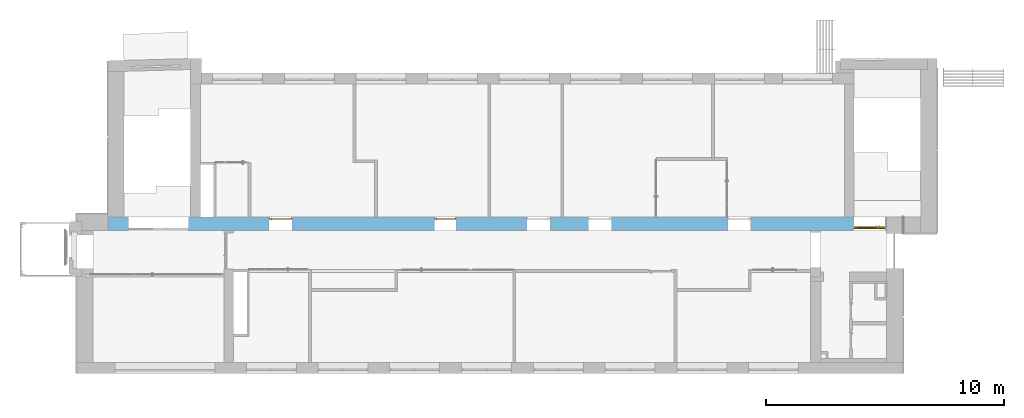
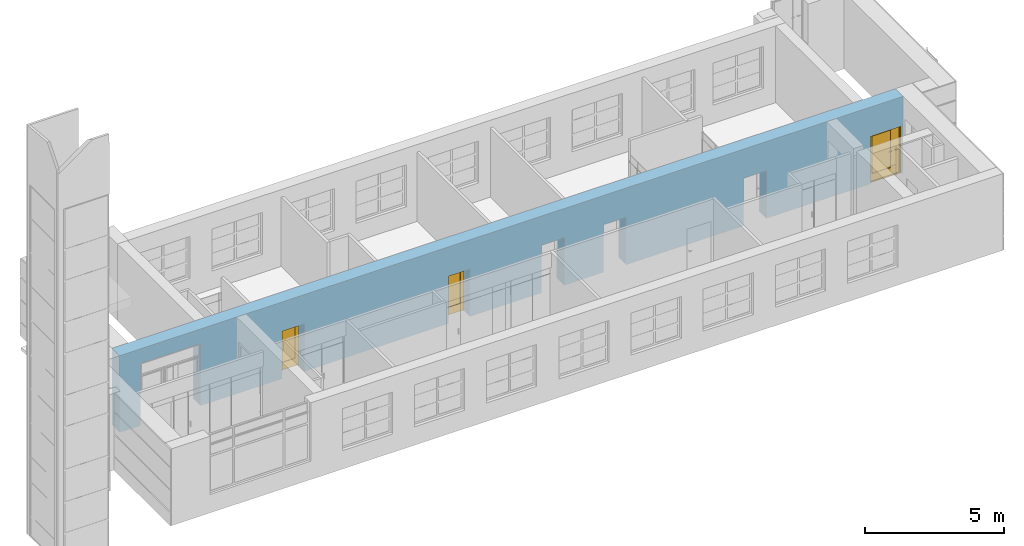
# One storey, part 63 of 66: 3 doors, 17 openings, plus 1 element that does not belong to this part.
"""IFC2X3 building model written with IfcOpenShell, lengths in millimetres."""

from ifc_helpers import new_model, entity, si_unit, converted_unit, derived_unit, direction, frame, frame_2d, origin, origin_2d_with_axis, place, context, subcontext, project, spatial, rectangle, extrude, faceted_brep, source, transform, mapped, material, material_list, layer, layer_set, layer_usage, type_object, type_shapes, element, fill, save


model = new_model("IFC2X3")

# Units and contexts
model_context = context("Model", 3, precision=0.01, world=origin(), true_north=direction((6.12303176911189e-17, 1.0)))
body_context = subcontext(model_context, "Body", "Model", "MODEL_VIEW")
ifc_project = project(units=[si_unit("LENGTHUNIT", "METRE", prefix="MILLI"), si_unit("AREAUNIT", "SQUARE_METRE"), si_unit("VOLUMEUNIT", "CUBIC_METRE"), converted_unit("PLANEANGLEUNIT", "DEGREE", entity("IfcRatioMeasure", 0.0174532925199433), si_unit("PLANEANGLEUNIT", "RADIAN"), dimensions=[0, 0, 0, 0, 0, 0, 0]), si_unit("MASSUNIT", "GRAM", prefix="KILO"), derived_unit("MASSDENSITYUNIT", [(si_unit("MASSUNIT", "GRAM", prefix="KILO"), 1), (si_unit("LENGTHUNIT", "METRE"), -3)]), si_unit("TIMEUNIT", "SECOND"), si_unit("FREQUENCYUNIT", "HERTZ"), si_unit("THERMODYNAMICTEMPERATUREUNIT", "DEGREE_CELSIUS"), derived_unit("THERMALTRANSMITTANCEUNIT", [(si_unit("MASSUNIT", "GRAM", prefix="KILO"), 1), (si_unit("THERMODYNAMICTEMPERATUREUNIT", "KELVIN"), -1), (si_unit("TIMEUNIT", "SECOND"), -3)]), derived_unit("VOLUMETRICFLOWRATEUNIT", [(si_unit("LENGTHUNIT", "METRE"), 3), (si_unit("TIMEUNIT", "SECOND"), -1)]), si_unit("ELECTRICCURRENTUNIT", "AMPERE"), si_unit("ELECTRICVOLTAGEUNIT", "VOLT"), si_unit("POWERUNIT", "WATT"), si_unit("FORCEUNIT", "NEWTON", prefix="KILO"), si_unit("ILLUMINANCEUNIT", "LUX"), si_unit("LUMINOUSFLUXUNIT", "LUMEN"), si_unit("LUMINOUSINTENSITYUNIT", "CANDELA"), derived_unit("USERDEFINED", [(si_unit("MASSUNIT", "GRAM", prefix="KILO"), -1), (si_unit("LENGTHUNIT", "METRE"), -2), (si_unit("TIMEUNIT", "SECOND"), 3), (si_unit("LUMINOUSFLUXUNIT", "LUMEN"), 1)]), derived_unit("LINEARVELOCITYUNIT", [(si_unit("LENGTHUNIT", "METRE"), 1), (si_unit("TIMEUNIT", "SECOND"), -1)]), si_unit("PRESSUREUNIT", "PASCAL"), derived_unit("USERDEFINED", [(si_unit("LENGTHUNIT", "METRE"), -2), (si_unit("MASSUNIT", "GRAM", prefix="KILO"), 1), (si_unit("TIMEUNIT", "SECOND"), -2)])], contexts=[model_context])

# Site, building, storey
site_placement = place(None, frame((-151.875543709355, 2715.0, 0.0)))
site = spatial("IfcSite", under=ifc_project, at=site_placement, Name="Surface", CompositionType="ELEMENT")
building_placement = place(site_placement, origin())
building = spatial("IfcBuilding", under=site, at=building_placement, CompositionType="ELEMENT")
storey_placement = place(building_placement, frame((0.0, 0.0, 3350.0)))
storey = spatial("IfcBuildingStorey", under=building, at=storey_placement, Name="2 korrus", CompositionType="ELEMENT", Elevation=3350.00000000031)

# Wall, openings, doors
ifc_material_1 = material(Name="__Kips GN13_tava")
ifc_layer_1 = layer(ifc_material_1, 20.0)
ifc_material_2 = material(Name="Masonry - Brick")
ifc_layer_2 = layer(ifc_material_2, 510.0)
ifc_layer_3 = layer(ifc_material_1, 20.0)
ifc_layer_set = layer_set([ifc_layer_1, ifc_layer_2, ifc_layer_3], Name="Basic Wall:SS-1")
ifc_layer_usage = layer_usage(ifc_layer_set, "AXIS2", "POSITIVE", -275.0)
wall_type = type_object("IfcWallType", Name="Basic Wall:SS-1", PredefinedType="STANDARD", material=ifc_layer_set)
wall_placement = place(storey_placement, frame((1091.0, 6285.0, 0.0)))
wall = element("IfcWallStandardCase", 1, at=wall_placement, inside=storey, type_object=wall_type, material=ifc_layer_usage, Name="SEIN - 002", ObjectType="Basic Wall:SS-1", context=body_context, shape_type="SweptSolid", body=[
    extrude(rectangle(XDim=32650.6162682, YDim=550.000000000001, at=frame_2d((16325.3081341, 0.0), x_axis=(-1.0, 0.0))), origin(), (0.0, 0.0, 1.0), 3380.43203354),
])
opening_1_placement = place(wall_placement, origin())
element("IfcOpeningElement", 2, at=opening_1_placement, cuts=wall, Name="SEIN - 002", ObjectType="Opening", context=body_context, shape_type="SweptSolid", body=[
    extrude(rectangle(XDim=2099.99999999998, YDim=950.000000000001, at=origin_2d_with_axis()), frame((17904.2662258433, -1249.0, 4430.4300000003), z_axis=(0.0, 1.0, 0.0), x_axis=(0.0, 0.0, 1.0)), (0.0, 0.0, 1.0), 3048.0),
])
opening_2_placement = place(wall_placement, origin())
element("IfcOpeningElement", 3, at=opening_2_placement, cuts=wall, Name="SEIN - 002", ObjectType="Opening", context=body_context, shape_type="SweptSolid", body=[
    extrude(rectangle(XDim=2099.99999999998, YDim=950.000000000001, at=frame_2d((0.0, -1.02318153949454e-12), x_axis=(0.0, 1.0))), frame((13565.3323530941, -1249.0, 4430.4300000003), z_axis=(0.0, 1.0, 0.0), x_axis=(-1.0, 0.0, 0.0)), (0.0, 0.0, 1.0), 3048.0),
])
opening_3_placement = place(wall_placement, origin())
element("IfcOpeningElement", 4, at=opening_3_placement, cuts=wall, Name="SEIN - 002", ObjectType="Opening", context=body_context, shape_type="SweptSolid", body=[
    extrude(rectangle(XDim=2099.99999999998, YDim=950.0, at=frame_2d((5.40012479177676e-13, -1.02318153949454e-12), x_axis=(0.0, 1.0))), frame((6696.84934805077, -1249.0, 4430.4300000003), z_axis=(0.0, 1.0, 0.0), x_axis=(-1.0, 0.0, 0.0)), (0.0, 0.0, 1.0), 3048.0),
])
opening_4_placement = place(wall_placement, origin())
element("IfcOpeningElement", 5, at=opening_4_placement, cuts=wall, Name="SEIN - 002", ObjectType="Opening", context=body_context, shape_type="SweptSolid", body=[
    extrude(rectangle(XDim=2099.99999999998, YDim=950.000000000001, at=origin_2d_with_axis()), frame((20485.37701032, -1249.0, 4430.4300000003), z_axis=(0.0, 1.0, 0.0), x_axis=(0.0, 0.0, 1.0)), (0.0, 0.0, 1.0), 3048.0),
])
opening_5_placement = place(wall_placement, origin())
element("IfcOpeningElement", 6, at=opening_5_placement, cuts=wall, Name="SEIN - 002", ObjectType="Opening", context=body_context, shape_type="SweptSolid", body=[
    extrude(rectangle(XDim=2099.99999999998, YDim=950.000000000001, at=frame_2d((5.6843418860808e-13, 0.0), x_axis=(1.0, 0.0))), frame((23450.99163952, -1249.0, 4430.42999999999), z_axis=(0.0, 1.0, 0.0), x_axis=(0.0, 0.0, 1.0)), (0.0, 0.0, 1.0), 3048.0),
])
opening_6_placement = place(wall_placement, origin())
element("IfcOpeningElement", 7, at=opening_6_placement, cuts=wall, Name="SEIN - 002", ObjectType="Opening", context=body_context, shape_type="SweptSolid", body=[
    extrude(rectangle(XDim=2099.99999999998, YDim=950.000000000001, at=frame_2d((0.0, -5.6843418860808e-13), x_axis=(0.0, 1.0))), frame((11346.81982462, -1249.0, 4430.42999999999), z_axis=(0.0, 1.0, 0.0), x_axis=(-1.0, 0.0, 0.0)), (0.0, 0.0, 1.0), 3048.0),
])
opening_7_placement = place(wall_placement, origin())
element("IfcOpeningElement", 8, at=opening_7_placement, cuts=wall, Name="SEIN - 002", ObjectType="Opening", context=body_context, shape_type="SweptSolid", body=[
    extrude(rectangle(XDim=2199.99999999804, YDim=1000.0, at=frame_2d((-2.8421709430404e-13, 0.0), x_axis=(0.0, 1.0))), frame((1367.76756733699, -1799.0, 4480.42999999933), z_axis=(0.0, 1.0, 0.0), x_axis=(-1.0, 0.0, 0.0)), (0.0, 0.0, 1.0), 3048.0),
])
opening_8_placement = place(wall_placement, origin())
element("IfcOpeningElement", 9, at=opening_8_placement, cuts=wall, Name="SEIN - 002", ObjectType="Opening", context=body_context, shape_type="SweptSolid", body=[
    extrude(rectangle(XDim=2199.99999999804, YDim=1500.0, at=frame_2d((-2.27373675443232e-13, 0.0), x_axis=(0.0, 1.0))), frame((2617.76756733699, -1799.0, 4480.42999999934), z_axis=(0.0, 1.0, 0.0), x_axis=(-1.0, 0.0, 0.0)), (0.0, 0.0, 1.0), 3048.0),
])
opening_9_placement = place(wall_placement, frame((31281.6162682, -275.0, 0.0)))
opening_9 = element("IfcOpeningElement", 10, at=opening_9_placement, cuts=wall, Name="Kahepoolsed:SU-11:1", ObjectType="Opening", context=body_context, shape_type="SweptSolid", body=[
    extrude(rectangle(XDim=2099.99999999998, YDim=1300.0, at=frame_2d((1049.99999999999, 650.0), x_axis=(1.0, 0.0))), frame((0.0, 0.0, 0.0), z_axis=(0.0, 1.0, 0.0), x_axis=(0.0, 0.0, 1.0)), (0.0, 0.0, 1.0), 550.0),
])
opening_10_placement = place(wall_placement, frame((21105.0626236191, 275.0, 0.0)))
element("IfcOpeningElement", 11, at=opening_10_placement, cuts=wall, Name="Ühepoolsed:SU-03.:1", ObjectType="Opening", context=body_context, shape_type="SweptSolid", body=[
    extrude(rectangle(XDim=2099.99999999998, YDim=950.0, at=frame_2d((1049.99999999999, 475.0), x_axis=(1.0, 0.0))), frame((0.0, 0.0, 0.0), z_axis=(0.0, -1.0, 0.0), x_axis=(0.0, 0.0, 1.0)), (0.0, 0.0, 1.0), 550.0),
])
opening_11_placement = place(wall_placement, frame((7707.77332100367, 275.0, 0.0)))
opening_11 = element("IfcOpeningElement", 12, at=opening_11_placement, cuts=wall, Name="Ühepoolsed:SU-03:1", ObjectType="Opening", context=body_context, shape_type="SweptSolid", body=[
    extrude(rectangle(XDim=2099.99999999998, YDim=950.0, at=frame_2d((1049.99999999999, 475.0), x_axis=(1.0, 0.0))), frame((0.0, 0.0, 0.0), z_axis=(0.0, -1.0, 0.0), x_axis=(0.0, 0.0, 1.0)), (0.0, 0.0, 1.0), 550.0),
])
opening_12_placement = place(wall_placement, frame((14597.5448846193, 275.0, 0.0)))
opening_12 = element("IfcOpeningElement", 13, at=opening_12_placement, cuts=wall, Name="Ühepoolsed:SU-02:1", ObjectType="Opening", context=body_context, shape_type="SweptSolid", body=[
    extrude(rectangle(XDim=2099.99999999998, YDim=900.0, at=frame_2d((1049.99999999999, 450.000000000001), x_axis=(1.0, 0.0))), frame((0.0, 0.0, 0.0), z_axis=(0.0, -1.0, 0.0), x_axis=(0.0, 0.0, 1.0)), (0.0, 0.0, 1.0), 550.0),
])
opening_13_placement = place(wall_placement, frame((18525.5552876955, 275.0, 0.0)))
element("IfcOpeningElement", 14, at=opening_13_placement, cuts=wall, Name="Ühepoolsed:SU-03.:1", ObjectType="Opening", context=body_context, shape_type="SweptSolid", body=[
    extrude(rectangle(XDim=2099.99999999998, YDim=950.0, at=frame_2d((1049.99999999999, 475.0), x_axis=(1.0, 0.0))), frame((0.0, 0.0, 0.0), z_axis=(0.0, -1.0, 0.0), x_axis=(0.0, 0.0, 1.0)), (0.0, 0.0, 1.0), 550.0),
])
opening_14_placement = place(wall_placement, frame((26947.3095754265, 275.0, 0.0)))
element("IfcOpeningElement", 15, at=opening_14_placement, cuts=wall, Name="Ühepoolsed:SU-03.:1", ObjectType="Opening", context=body_context, shape_type="SweptSolid", body=[
    extrude(rectangle(XDim=2099.99999999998, YDim=950.0, at=frame_2d((1049.99999999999, 475.0), x_axis=(1.0, 0.0))), frame((0.0, 0.0, 0.0), z_axis=(0.0, -1.0, 0.0), x_axis=(0.0, 0.0, 1.0)), (0.0, 0.0, 1.0), 550.0),
])
opening_15_placement = place(wall_placement, frame((1867.76756733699, -275.0, 0.0)))
element("IfcOpeningElement", 16, at=opening_15_placement, cuts=wall, Name="Kahepoolsed:SU-17:1", ObjectType="Opening", context=body_context, shape_type="SweptSolid", body=[
    extrude(rectangle(XDim=2199.99999999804, YDim=1500.0, at=frame_2d((1099.99999999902, 750.0), x_axis=(1.0, 0.0))), frame((0.0, 0.0, 0.0), z_axis=(0.0, 1.0, 0.0), x_axis=(0.0, 0.0, 1.0)), (0.0, 0.0, 1.0), 550.0),
])
opening_16_placement = place(wall_placement, frame((867.767567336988, -275.0, 0.0)))
element("IfcOpeningElement", 17, at=opening_16_placement, cuts=wall, Name="Aken ukse kohal:SU-1500_aken:1", ObjectType="Opening", context=body_context, shape_type="SweptSolid", body=[
    extrude(rectangle(XDim=2199.99999999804, YDim=1000.0, at=frame_2d((1099.99999999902, 500.0), x_axis=(1.0, 0.0))), frame((0.0, 0.0, 0.0), z_axis=(0.0, 1.0, 0.0), x_axis=(0.0, 0.0, 1.0)), (0.0, 0.0, 1.0), 550.0),
])
opening_17_placement = place(wall_placement, frame((867.767567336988, -275.0, 2200.0)))
element("IfcOpeningElement", 18, at=opening_17_placement, cuts=wall, Name="Ühepoolsed:SU17_ülemine:1", ObjectType="Opening", context=body_context, shape_type="SweptSolid", body=[
    extrude(rectangle(XDim=539.999999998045, YDim=2500.0, at=frame_2d((269.999999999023, 1250.0), x_axis=(1.0, 0.0))), frame((0.0, 0.0, 0.0), z_axis=(0.0, 1.0, 0.0), x_axis=(0.0, 0.0, 1.0)), (0.0, 0.0, 1.0), 550.0),
])
ifc_material_3 = material(Name="_Alumiiniumprofiil - must")
ifc_material_4 = material(Name="__Uks_hele tamm")
ifc_material_5 = material(Name="EP Tavallinen lasi")
ifc_material_list_1 = material_list([ifc_material_3, ifc_material_4, ifc_material_5])
ifc_material_list_2 = material_list([ifc_material_3, ifc_material_4, ifc_material_5])
door_style_1 = type_object("IfcDoorStyle", Name="SU-11", ConstructionType="NOTDEFINED", OperationType="FOLDING_TO_RIGHT", ParameterTakesPrecedence=False, Sizeable=False, material=ifc_material_list_2)
shared_shape_1 = source(origin(), body_context, "Body", "Brep", [
    faceted_brep([(912.5, 60.0, 1100.0), (817.5, 60.0, 1100.0), (817.5, 55.0, 1100.0), (937.5, 55.0, 1100.0), (937.5, 98.0, 1100.0), (912.5, 98.0, 1100.0), (912.5, 60.0, 1075.0), (912.5, 98.0, 1075.0), (937.5, 98.0, 1075.0), (937.5, 55.0, 1075.0), (817.5, 55.0, 1075.0), (817.5, 60.0, 1075.0)], [[[0, 1, 2, 3, 4, 5]], [[6, 7, 8, 9, 10, 11]], [[5, 7, 6, 0]], [[4, 8, 7, 5]], [[3, 9, 8, 4]], [[2, 10, 9, 3]], [[1, 11, 10, 2]], [[0, 6, 11, 1]]]),
    faceted_brep([(900.0, 98.0, 1125.0), (950.0, 98.0, 1125.0), (950.0, 100.0, 1125.0), (900.0, 100.0, 1125.0), (900.0, 98.0, 1005.0), (900.0, 100.0, 1005.0), (950.0, 100.0, 1005.0), (950.0, 98.0, 1005.0)], [[[0, 1, 2, 3]], [[4, 5, 6, 7]], [[3, 5, 4, 0]], [[2, 6, 5, 3]], [[1, 7, 6, 2]], [[0, 4, 7, 1]]]),
    faceted_brep([(912.499999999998, 190.0, 1100.0), (912.499999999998, 152.0, 1100.0), (937.499999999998, 152.0, 1100.0), (937.499999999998, 195.0, 1100.0), (817.499999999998, 195.0, 1100.0), (817.499999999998, 190.0, 1100.0), (912.499999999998, 190.0, 1075.0), (817.499999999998, 190.0, 1075.0), (817.499999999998, 195.0, 1075.0), (937.499999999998, 195.0, 1075.0), (937.499999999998, 152.0, 1075.0), (912.499999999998, 152.0, 1075.0)], [[[0, 1, 2, 3, 4, 5]], [[6, 7, 8, 9, 10, 11]], [[1, 0, 6, 11]], [[2, 1, 11, 10]], [[3, 2, 10, 9]], [[4, 3, 9, 8]], [[5, 4, 8, 7]], [[0, 5, 7, 6]]]),
    faceted_brep([(900.0, 152.0, 1125.0), (900.0, 150.0, 1125.0), (950.0, 150.0, 1125.0), (950.0, 152.0, 1125.0), (900.0, 152.0, 1005.0), (950.0, 152.0, 1005.0), (950.0, 150.0, 1005.0), (900.0, 150.0, 1005.0)], [[[0, 1, 2, 3]], [[4, 5, 6, 7]], [[1, 0, 4, 7]], [[2, 1, 7, 6]], [[3, 2, 6, 5]], [[0, 3, 5, 4]]]),
    faceted_brep([(1087.5, 60.0, 1100.0), (1087.5, 98.0, 1100.0), (1062.5, 98.0, 1100.0), (1062.5, 55.0, 1100.0), (1182.5, 55.0, 1100.0), (1182.5, 60.0, 1100.0), (1087.5, 60.0, 1075.0), (1182.5, 60.0, 1075.0), (1182.5, 55.0, 1075.0), (1062.5, 55.0, 1075.0), (1062.5, 98.0, 1075.0), (1087.5, 98.0, 1075.0)], [[[0, 1, 2, 3, 4, 5]], [[6, 7, 8, 9, 10, 11]], [[1, 0, 6, 11]], [[2, 1, 11, 10]], [[3, 2, 10, 9]], [[4, 3, 9, 8]], [[5, 4, 8, 7]], [[0, 5, 7, 6]]]),
    faceted_brep([(1100.0, 98.0, 1125.0), (1100.0, 100.0, 1125.0), (1050.0, 100.0, 1125.0), (1050.0, 98.0, 1125.0), (1100.0, 98.0, 1005.0), (1050.0, 98.0, 1005.0), (1050.0, 100.0, 1005.0), (1100.0, 100.0, 1005.0)], [[[0, 1, 2, 3]], [[4, 5, 6, 7]], [[1, 0, 4, 7]], [[2, 1, 7, 6]], [[3, 2, 6, 5]], [[0, 3, 5, 4]]]),
    faceted_brep([(1087.5, 190.0, 1100.0), (1182.5, 190.0, 1100.0), (1182.5, 195.0, 1100.0), (1062.5, 195.0, 1100.0), (1062.5, 152.0, 1100.0), (1087.5, 152.0, 1100.0), (1087.5, 190.0, 1075.0), (1087.5, 152.0, 1075.0), (1062.5, 152.0, 1075.0), (1062.5, 195.0, 1075.0), (1182.5, 195.0, 1075.0), (1182.5, 190.0, 1075.0)], [[[0, 1, 2, 3, 4, 5]], [[6, 7, 8, 9, 10, 11]], [[5, 7, 6, 0]], [[4, 8, 7, 5]], [[3, 9, 8, 4]], [[2, 10, 9, 3]], [[1, 11, 10, 2]], [[0, 6, 11, 1]]]),
    faceted_brep([(1100.0, 152.0, 1125.0), (1050.0, 152.0, 1125.0), (1050.0, 150.0, 1125.0), (1100.0, 150.0, 1125.0), (1100.0, 152.0, 1005.0), (1100.0, 150.0, 1005.0), (1050.0, 150.0, 1005.0), (1050.0, 152.0, 1005.0)], [[[0, 1, 2, 3]], [[4, 5, 6, 7]], [[3, 5, 4, 0]], [[2, 6, 5, 3]], [[1, 7, 6, 2]], [[0, 4, 7, 1]]]),
    faceted_brep([(1260.0, 60.0, 30.0), (1260.0, 60.0, 0.0), (1260.0, 100.0, 0.0), (1260.0, 100.0, 20.0), (1260.0, 100.0, 30.0), (40.0, 60.0, 30.0), (40.0, 100.0, 30.0), (40.0, 100.0, 20.0), (40.0, 100.0, 0.0), (40.0, 60.0, 0.0), (25.0, 100.0, 0.0), (25.0, 150.0, 0.0), (1275.0, 150.0, 0.0), (1275.0, 100.0, 0.0), (1275.0, 150.0, 20.0), (1275.0, 100.0, 20.0), (25.0, 150.0, 20.0), (25.0, 100.0, 20.0)], [[[0, 1, 2, 3, 4]], [[5, 6, 7, 8, 9]], [[1, 0, 5, 9]], [[2, 1, 9, 8, 10, 11, 12, 13]], [[6, 4, 3, 7]], [[0, 4, 6, 5]], [[14, 15, 13, 12]], [[16, 11, 10, 17]], [[15, 14, 16, 17, 7, 3]], [[13, 15, 3, 2]], [[14, 12, 11, 16]], [[17, 10, 8, 7]]]),
    faceted_brep([(1300.0, 60.0, 0.0), (1260.0, 60.0, 0.0), (1260.0, 100.0, 0.0), (1275.0, 100.0, 0.0), (1275.0, 150.0, 0.0), (1300.0, 150.0, 0.0), (1300.0, 60.0, 2100.0), (0.0, 60.0, 2100.0), (0.0, 60.0, 0.0), (40.0, 60.0, 0.0), (40.0, 60.0, 2060.0), (1260.0, 60.0, 2060.0), (1260.0, 100.0, 2060.0), (40.0, 100.0, 2060.0), (40.0, 100.0, 0.0), (25.0, 100.0, 0.0), (25.0, 100.0, 2075.0), (1275.0, 100.0, 2075.0), (1275.0, 150.0, 2075.0), (25.0, 150.0, 2075.0), (25.0, 150.0, 0.0), (0.0, 150.0, 0.0), (0.0, 150.0, 2100.0), (1300.0, 150.0, 2100.0)], [[[0, 1, 2, 3, 4, 5]], [[1, 0, 6, 7, 8, 9, 10, 11]], [[2, 1, 11, 12]], [[3, 2, 12, 13, 14, 15, 16, 17]], [[4, 3, 17, 18]], [[5, 4, 18, 19, 20, 21, 22, 23]], [[0, 5, 23, 6]], [[8, 7, 22, 21]], [[9, 8, 21, 20, 15, 14]], [[10, 9, 14, 13]], [[16, 15, 20, 19]], [[11, 10, 13, 12]], [[17, 16, 19, 18]], [[7, 6, 23, 22]]]),
    faceted_brep([(1149.0, 150.0, 2000.0), (1149.0, 100.0, 2000.0), (1149.0, 100.0, 1990.0), (1149.0, 150.0, 1990.0), (1150.0, 100.0, 1990.0), (1150.0, 150.0, 1990.0), (1150.0, 100.0, 2000.0), (1150.0, 150.0, 2000.0), (1275.0, 100.0, 2075.0), (1000.0, 100.0, 2075.0), (1000.0, 100.0, 20.0), (1275.0, 100.0, 20.0), (1275.0, 150.0, 2075.0), (1275.0, 150.0, 20.0), (1000.0, 150.0, 20.0), (1000.0, 150.0, 2075.0)], [[[0, 1, 2, 3]], [[3, 2, 4, 5]], [[5, 4, 6, 7]], [[1, 0, 7, 6]], [[2, 1, 6, 4], [8, 9, 10, 11]], [[0, 3, 5, 7], [12, 13, 14, 15]], [[9, 8, 12, 15]], [[10, 9, 15, 14]], [[11, 10, 14, 13]], [[8, 11, 13, 12]]], outer=[[True], [True], [True], [True], [False, True], [False, True], [True], [True], [True], [True]]),
    faceted_brep([(125.0, 115.0, 350.0), (900.0, 115.0, 350.0), (900.0, 115.0, 2000.0), (125.0, 115.0, 2000.0), (125.0, 135.0, 350.0), (125.0, 135.0, 2000.0), (900.0, 135.0, 2000.0), (900.0, 135.0, 350.0)], [[[0, 1, 2, 3]], [[4, 5, 6, 7]], [[1, 0, 4, 7]], [[2, 1, 7, 6]], [[3, 2, 6, 5]], [[0, 3, 5, 4]]]),
    faceted_brep([(1000.0, 100.0, 2075.0), (25.0, 100.0, 2075.0), (25.0, 100.0, 20.0), (1000.0, 100.0, 20.0), (125.0, 100.0, 350.0), (125.0, 100.0, 2000.0), (900.0, 100.0, 2000.0), (900.0, 100.0, 350.0), (1000.0, 150.0, 2075.0), (1000.0, 150.0, 20.0), (25.0, 150.0, 20.0), (25.0, 150.0, 2075.0), (125.0, 150.0, 2000.0), (125.0, 150.0, 350.0), (900.0, 150.0, 350.0), (900.0, 150.0, 2000.0)], [[[0, 1, 2, 3], [4, 5, 6, 7]], [[8, 9, 10, 11], [12, 13, 14, 15]], [[1, 0, 8, 11]], [[2, 1, 11, 10]], [[3, 2, 10, 9]], [[0, 3, 9, 8]], [[12, 5, 4, 13]], [[13, 4, 7, 14]], [[14, 7, 6, 15]], [[5, 12, 15, 6]]]),
])
type_shapes(door_style_1, [shared_shape_1])
door_1_placement = place(opening_9_placement, origin())
door_1 = element("IfcDoor", 19, at=door_1_placement, inside=storey, type_object=door_style_1, material=ifc_material_list_1, Name="Kahepoolsed:SU-11", ObjectType="SU-11", OverallHeight=2099.99999999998, OverallWidth=1300.0, context=body_context, shape_type="MappedRepresentation", body=[
    mapped(shared_shape_1, transform((0.0, 0.0, 0.0), scale=1.0)),
])
fill(opening_9, door_1)
ifc_material_6 = material(Name="Glass")
ifc_material_list_3 = material_list([ifc_material_3, ifc_material_4, ifc_material_6])
ifc_material_list_4 = material_list([ifc_material_3, ifc_material_4, ifc_material_6])
door_style_2 = type_object("IfcDoorStyle", Name="SU-03", ConstructionType="NOTDEFINED", OperationType="FOLDING_TO_LEFT", ParameterTakesPrecedence=False, Sizeable=False, material=ifc_material_list_4)
shared_shape_2 = source(origin(), body_context, "Body", "Brep", [
    faceted_brep([(850.0, 10.0, 1112.5), (755.0, 10.0, 1112.5), (755.0, 5.0, 1112.5), (875.0, 5.0, 1112.5), (875.0, 48.0, 1112.5), (850.0, 48.0, 1112.5), (850.0, 10.0, 1087.5), (850.0, 48.0, 1087.5), (875.0, 48.0, 1087.5), (875.0, 5.0, 1087.5), (755.0, 5.0, 1087.5), (755.0, 10.0, 1087.5)], [[[0, 1, 2, 3, 4, 5]], [[6, 7, 8, 9, 10, 11]], [[5, 7, 6, 0]], [[4, 8, 7, 5]], [[3, 9, 8, 4]], [[2, 10, 9, 3]], [[1, 11, 10, 2]], [[0, 6, 11, 1]]]),
    faceted_brep([(837.500000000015, 48.0, 1137.5), (887.500000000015, 48.0, 1137.5), (887.500000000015, 50.0, 1137.5), (837.500000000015, 50.0, 1137.5), (837.500000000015, 48.0, 1017.5), (837.500000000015, 50.0, 1017.5), (887.500000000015, 50.0, 1017.5), (887.500000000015, 48.0, 1017.5)], [[[0, 1, 2, 3]], [[4, 5, 6, 7]], [[3, 5, 4, 0]], [[2, 6, 5, 3]], [[1, 7, 6, 2]], [[0, 4, 7, 1]]]),
    faceted_brep([(850.0, 140.0, 1112.5), (850.0, 102.0, 1112.5), (875.0, 102.0, 1112.5), (875.0, 145.0, 1112.5), (755.0, 145.0, 1112.5), (755.0, 140.0, 1112.5), (850.0, 140.0, 1087.5), (755.0, 140.0, 1087.5), (755.0, 145.0, 1087.5), (875.0, 145.0, 1087.5), (875.0, 102.0, 1087.5), (850.0, 102.0, 1087.5)], [[[0, 1, 2, 3, 4, 5]], [[6, 7, 8, 9, 10, 11]], [[1, 0, 6, 11]], [[2, 1, 11, 10]], [[3, 2, 10, 9]], [[4, 3, 9, 8]], [[5, 4, 8, 7]], [[0, 5, 7, 6]]]),
    faceted_brep([(837.500000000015, 102.0, 1137.5), (837.500000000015, 100.0, 1137.5), (887.500000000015, 100.0, 1137.5), (887.500000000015, 102.0, 1137.5), (837.500000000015, 102.0, 1017.5), (887.500000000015, 102.0, 1017.5), (887.500000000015, 100.0, 1017.5), (837.500000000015, 100.0, 1017.5)], [[[0, 1, 2, 3]], [[4, 5, 6, 7]], [[1, 0, 4, 7]], [[2, 1, 7, 6]], [[3, 2, 6, 5]], [[0, 3, 5, 4]]]),
    faceted_brep([(0.0, 10.0, 0.0), (0.0, 100.0, 0.0), (25.0, 100.0, 0.0), (25.0, 50.0, 0.0), (40.0, 50.0, 0.0), (40.0, 10.0, 0.0), (40.0, 10.0, 2060.0), (910.0, 10.0, 2060.0), (910.0, 10.0, 0.0), (950.0, 10.0, 0.0), (950.0, 10.0, 2100.0), (0.0, 10.0, 2100.0), (40.0, 50.0, 2060.0), (25.0, 50.0, 2075.0), (925.0, 50.0, 2075.0), (925.0, 50.0, 0.0), (910.0, 50.0, 0.0), (910.0, 50.0, 2060.0), (25.0, 100.0, 2075.0), (0.0, 100.0, 2100.0), (950.0, 100.0, 2100.0), (950.0, 100.0, 0.0), (925.0, 100.0, 0.0), (925.0, 100.0, 2075.0)], [[[0, 1, 2, 3, 4, 5]], [[5, 6, 7, 8, 9, 10, 11, 0]], [[4, 12, 6, 5]], [[3, 13, 14, 15, 16, 17, 12, 4]], [[2, 18, 13, 3]], [[1, 19, 20, 21, 22, 23, 18, 2]], [[0, 11, 19, 1]], [[9, 21, 20, 10]], [[8, 16, 15, 22, 21, 9]], [[7, 17, 16, 8]], [[14, 23, 22, 15]], [[6, 12, 17, 7]], [[13, 18, 23, 14]], [[10, 20, 19, 11]]]),
    faceted_brep([(140.0, 65.0, 350.0), (810.0, 65.0, 350.0), (810.0, 65.0, 1960.0), (140.0, 65.0, 1960.0), (140.0, 85.0, 350.0), (140.0, 85.0, 1960.0), (810.0, 85.0, 1960.0), (810.0, 85.0, 350.0)], [[[0, 1, 2, 3]], [[4, 5, 6, 7]], [[3, 5, 4, 0]], [[2, 6, 5, 3]], [[1, 7, 6, 2]], [[0, 4, 7, 1]]]),
    faceted_brep([(25.0, 50.0, 20.0), (925.0, 50.0, 20.0), (925.0, 50.0, 2075.0), (25.0, 50.0, 2075.0), (810.0, 50.0, 350.0), (140.0, 50.0, 350.0), (140.0, 50.0, 1960.0), (810.0, 50.0, 1960.0), (25.0, 100.0, 20.0), (25.0, 100.0, 2075.0), (925.0, 100.0, 2075.0), (925.0, 100.0, 20.0), (810.0, 100.0, 1960.0), (140.0, 100.0, 1960.0), (140.0, 100.0, 350.0), (810.0, 100.0, 350.0)], [[[0, 1, 2, 3], [4, 5, 6, 7]], [[8, 9, 10, 11], [12, 13, 14, 15]], [[3, 9, 8, 0]], [[2, 10, 9, 3]], [[1, 11, 10, 2]], [[0, 8, 11, 1]], [[12, 15, 4, 7]], [[15, 14, 5, 4]], [[14, 13, 6, 5]], [[7, 6, 13, 12]]]),
])
type_shapes(door_style_2, [shared_shape_2])
door_2_placement = place(opening_11_placement, frame((0.0, 0.0, 0.0), z_axis=(0.0, 0.0, 1.0), x_axis=(-1.0, 0.0, 0.0)))
door_2 = element("IfcDoor", 20, at=door_2_placement, inside=storey, type_object=door_style_2, material=ifc_material_list_3, Name="Ühepoolsed:SU-03", ObjectType="SU-03", OverallHeight=2099.99999999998, OverallWidth=950.0, context=body_context, shape_type="MappedRepresentation", body=[
    mapped(shared_shape_2, transform((0.0, 0.0, 0.0), scale=1.0)),
])
fill(opening_11, door_2)
ifc_material_list_5 = material_list([ifc_material_3, ifc_material_4, ifc_material_6])
ifc_material_list_6 = material_list([ifc_material_3, ifc_material_4, ifc_material_6])
door_style_3 = type_object("IfcDoorStyle", Name="SU-02", ConstructionType="NOTDEFINED", OperationType="FOLDING_TO_LEFT", ParameterTakesPrecedence=False, Sizeable=False, material=ifc_material_list_6)
shared_shape_3 = source(origin(), body_context, "Body", "Brep", [
    faceted_brep([(800.0, 10.0, 1112.5), (705.0, 10.0, 1112.5), (705.0, 5.0, 1112.5), (825.0, 5.0, 1112.5), (825.0, 48.0, 1112.5), (800.0, 48.0, 1112.5), (800.0, 10.0, 1087.5), (800.0, 48.0, 1087.5), (825.0, 48.0, 1087.5), (825.0, 5.0, 1087.5), (705.0, 5.0, 1087.5), (705.0, 10.0, 1087.5)], [[[0, 1, 2, 3, 4, 5]], [[6, 7, 8, 9, 10, 11]], [[5, 7, 6, 0]], [[4, 8, 7, 5]], [[3, 9, 8, 4]], [[2, 10, 9, 3]], [[1, 11, 10, 2]], [[0, 6, 11, 1]]]),
    faceted_brep([(787.500000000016, 48.0, 1137.5), (837.500000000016, 48.0, 1137.5), (837.500000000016, 50.0, 1137.5), (787.500000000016, 50.0, 1137.5), (787.500000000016, 48.0, 1017.5), (787.500000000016, 50.0, 1017.5), (837.500000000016, 50.0, 1017.5), (837.500000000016, 48.0, 1017.5)], [[[0, 1, 2, 3]], [[4, 5, 6, 7]], [[3, 5, 4, 0]], [[2, 6, 5, 3]], [[1, 7, 6, 2]], [[0, 4, 7, 1]]]),
    faceted_brep([(800.0, 140.0, 1112.5), (800.0, 102.0, 1112.5), (825.0, 102.0, 1112.5), (825.0, 145.0, 1112.5), (705.0, 145.0, 1112.5), (705.0, 140.0, 1112.5), (800.0, 140.0, 1087.5), (705.0, 140.0, 1087.5), (705.0, 145.0, 1087.5), (825.0, 145.0, 1087.5), (825.0, 102.0, 1087.5), (800.0, 102.0, 1087.5)], [[[0, 1, 2, 3, 4, 5]], [[6, 7, 8, 9, 10, 11]], [[1, 0, 6, 11]], [[2, 1, 11, 10]], [[3, 2, 10, 9]], [[4, 3, 9, 8]], [[5, 4, 8, 7]], [[0, 5, 7, 6]]]),
    faceted_brep([(787.500000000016, 102.0, 1137.5), (787.500000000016, 100.0, 1137.5), (837.500000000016, 100.0, 1137.5), (837.500000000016, 102.0, 1137.5), (787.500000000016, 102.0, 1017.5), (837.500000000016, 102.0, 1017.5), (837.500000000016, 100.0, 1017.5), (787.500000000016, 100.0, 1017.5)], [[[0, 1, 2, 3]], [[4, 5, 6, 7]], [[1, 0, 4, 7]], [[2, 1, 7, 6]], [[3, 2, 6, 5]], [[0, 3, 5, 4]]]),
    faceted_brep([(0.0, 10.0, 0.0), (0.0, 100.0, 0.0), (25.0, 100.0, 0.0), (25.0, 50.0, 0.0), (40.0, 50.0, 0.0), (40.0, 10.0, 0.0), (40.0, 10.0, 2060.0), (860.0, 10.0, 2060.0), (860.0, 10.0, 0.0), (900.0, 10.0, 0.0), (900.0, 10.0, 2100.0), (0.0, 10.0, 2100.0), (40.0, 50.0, 2060.0), (25.0, 50.0, 2075.0), (875.0, 50.0, 2075.0), (875.0, 50.0, 0.0), (860.0, 50.0, 0.0), (860.0, 50.0, 2060.0), (25.0, 100.0, 2075.0), (0.0, 100.0, 2100.0), (900.0, 100.0, 2100.0), (900.0, 100.0, 0.0), (875.0, 100.0, 0.0), (875.0, 100.0, 2075.0)], [[[0, 1, 2, 3, 4, 5]], [[5, 6, 7, 8, 9, 10, 11, 0]], [[4, 12, 6, 5]], [[3, 13, 14, 15, 16, 17, 12, 4]], [[2, 18, 13, 3]], [[1, 19, 20, 21, 22, 23, 18, 2]], [[0, 11, 19, 1]], [[9, 21, 20, 10]], [[8, 16, 15, 22, 21, 9]], [[7, 17, 16, 8]], [[14, 23, 22, 15]], [[6, 12, 17, 7]], [[13, 18, 23, 14]], [[10, 20, 19, 11]]]),
    faceted_brep([(140.0, 65.0, 350.0), (760.0, 65.0, 350.0), (760.0, 65.0, 1960.0), (140.0, 65.0, 1960.0), (140.0, 85.0, 350.0), (140.0, 85.0, 1960.0), (760.0, 85.0, 1960.0), (760.0, 85.0, 350.0)], [[[0, 1, 2, 3]], [[4, 5, 6, 7]], [[3, 5, 4, 0]], [[2, 6, 5, 3]], [[1, 7, 6, 2]], [[0, 4, 7, 1]]]),
    faceted_brep([(25.0, 50.0, 20.0), (875.0, 50.0, 20.0), (875.0, 50.0, 2075.0), (25.0, 50.0, 2075.0), (760.0, 50.0, 350.0), (140.0, 50.0, 350.0), (140.0, 50.0, 1960.0), (760.0, 50.0, 1960.0), (25.0, 100.0, 20.0), (25.0, 100.0, 2075.0), (875.0, 100.0, 2075.0), (875.0, 100.0, 20.0), (760.0, 100.0, 1960.0), (140.0, 100.0, 1960.0), (140.0, 100.0, 350.0), (760.0, 100.0, 350.0)], [[[0, 1, 2, 3], [4, 5, 6, 7]], [[8, 9, 10, 11], [12, 13, 14, 15]], [[3, 9, 8, 0]], [[2, 10, 9, 3]], [[1, 11, 10, 2]], [[0, 8, 11, 1]], [[12, 15, 4, 7]], [[15, 14, 5, 4]], [[14, 13, 6, 5]], [[7, 6, 13, 12]]]),
])
type_shapes(door_style_3, [shared_shape_3])
door_3_placement = place(opening_12_placement, frame((0.0, 0.0, 0.0), z_axis=(0.0, 0.0, 1.0), x_axis=(-1.0, 0.0, 0.0)))
door_3 = element("IfcDoor", 21, at=door_3_placement, inside=storey, type_object=door_style_3, material=ifc_material_list_5, Name="Ühepoolsed:SU-02", ObjectType="SU-02", OverallHeight=2099.99999999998, OverallWidth=900.000000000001, context=body_context, shape_type="MappedRepresentation", body=[
    mapped(shared_shape_3, transform((0.0, 0.0, 0.0), scale=1.0)),
])
fill(opening_12, door_3)

save(model, "model.ifc")
